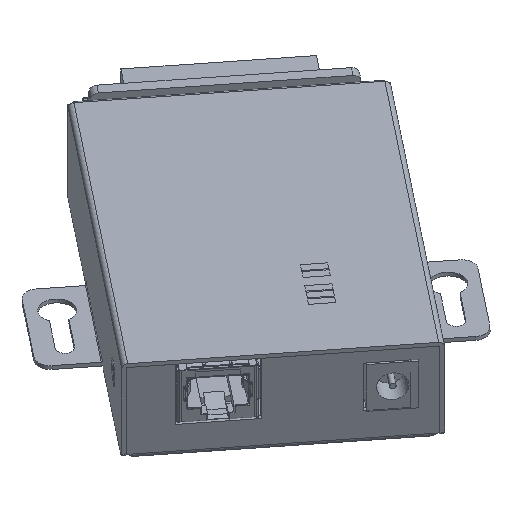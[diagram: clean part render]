
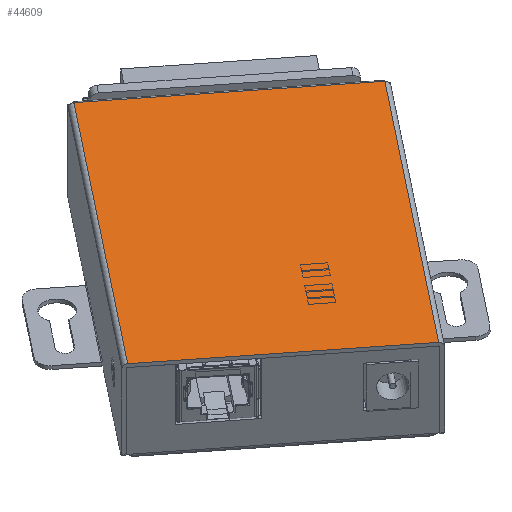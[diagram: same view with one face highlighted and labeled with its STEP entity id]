
A CAD part, isometric view. The second image highlights one B-rep face of the part: STEP entity #44609.
In plain terms, the highlighted planar face has unit normal (0, 0, 1) as drawn and (0, 0, -1) by its records, which use the part's own axes.
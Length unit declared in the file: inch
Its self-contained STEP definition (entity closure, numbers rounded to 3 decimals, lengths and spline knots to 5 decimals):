
#44420=CARTESIAN_POINT('',(2.447,0.0,0.));
#44421=VERTEX_POINT('',#44420);
#44429=CARTESIAN_POINT('',(2.447,3.491,0.));
#44430=VERTEX_POINT('',#44429);
#44431=CARTESIAN_POINT('',(2.447,3.491,0.));
#44432=DIRECTION('',(0.0,-1.0,0.0));
#44433=VECTOR('',#44432,3.491);
#44434=LINE('',#44431,#44433);
#44435=EDGE_CURVE('',#44430,#44421,#44434,.T.);
#44579=CARTESIAN_POINT('',(1.246,1.768,0.0));
#44580=DIRECTION('',(0.0,0.0,1.0));
#44581=DIRECTION('',(1.0,0.0,0.0));
#44582=AXIS2_PLACEMENT_3D('',#44579,#44580,#44581);
#44583=PLANE('',#44582);
#44584=ORIENTED_EDGE('',*,*,#44435,.T.);
#44585=CARTESIAN_POINT('',(0.045,0.0,0.));
#44586=VERTEX_POINT('',#44585);
#44587=CARTESIAN_POINT('',(0.045,0.0,0.));
#44588=DIRECTION('',(1.0,0.0,0.0));
#44589=VECTOR('',#44588,2.402);
#44590=LINE('',#44587,#44589);
#44591=EDGE_CURVE('',#44586,#44421,#44590,.T.);
#44592=ORIENTED_EDGE('',*,*,#44591,.F.);
#44593=CARTESIAN_POINT('',(0.045,3.491,0.));
#44594=VERTEX_POINT('',#44593);
#44595=CARTESIAN_POINT('',(0.045,0.0,0.));
#44596=DIRECTION('',(0.0,1.0,0.0));
#44597=VECTOR('',#44596,3.491);
#44598=LINE('',#44595,#44597);
#44599=EDGE_CURVE('',#44586,#44594,#44598,.T.);
#44600=ORIENTED_EDGE('',*,*,#44599,.T.);
#44601=CARTESIAN_POINT('',(0.045,3.491,0.));
#44602=DIRECTION('',(1.0,0.0,0.0));
#44603=VECTOR('',#44602,2.402);
#44604=LINE('',#44601,#44603);
#44605=EDGE_CURVE('',#44594,#44430,#44604,.T.);
#44606=ORIENTED_EDGE('',*,*,#44605,.T.);
#44607=EDGE_LOOP('',(#44584,#44592,#44600,#44606));
#44608=FACE_OUTER_BOUND('',#44607,.T.);
#44609=ADVANCED_FACE('',(#44608),#44583,.F.);
